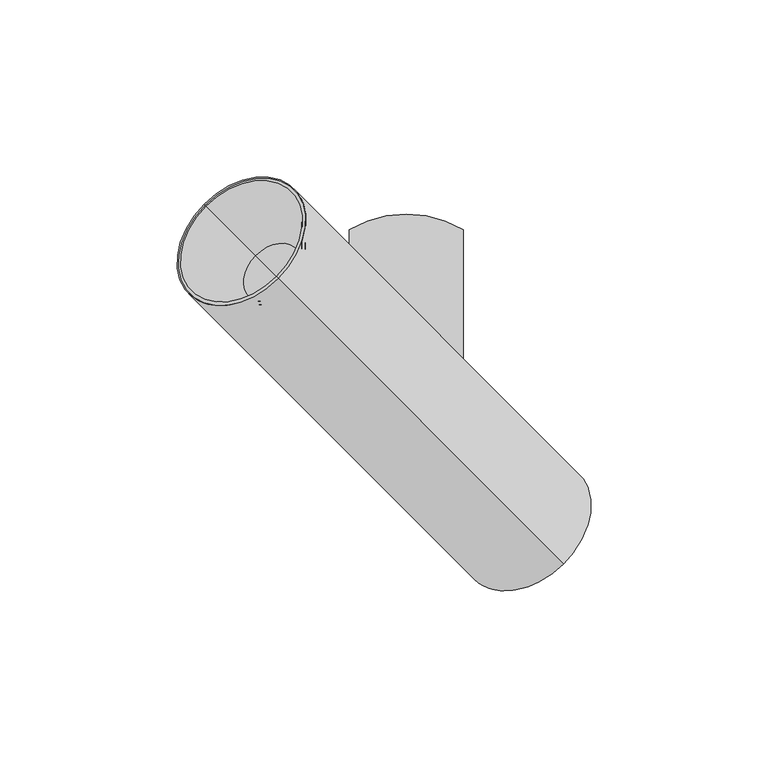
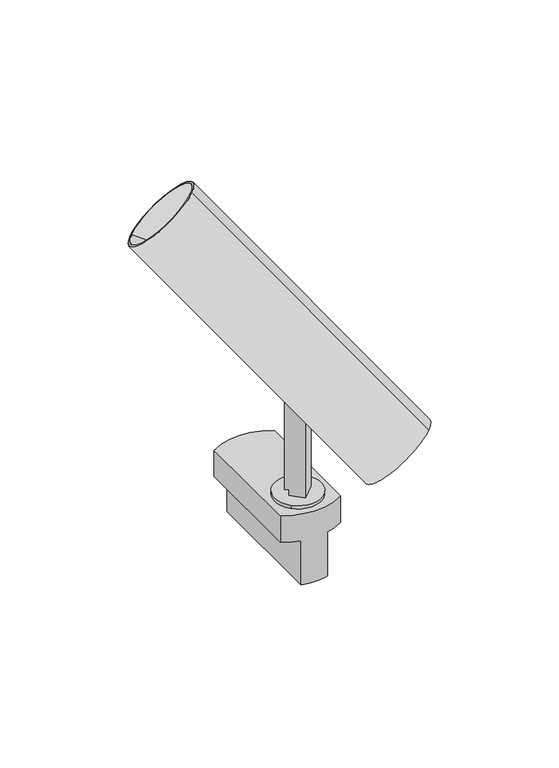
"""IFC4 building model written with IfcOpenShell, lengths in millimetres: light fixture geometry, PIPES T XS : 490lm 7,8W 930 38°."""

from ifc_helpers import new_model, si_unit, point, frame, frame_2d, origin, origin_2d, place, context, project, spatial, polyline, circle_curve, trimmed, segment, composite_curve, outline, extrude, source, transform, mapped, element, save
from ifc_brep_helpers import plane_surface, cylinder_surface, revolved_surface, advanced_brep


def light_fixture_8a452a98(model_context):
    return source(origin(), model_context, "Body", "SolidModel", [
        extrude(outline(composite_curve([segment(polyline([(-39.7303383, 0.0), (8.1822916, 0.0)]), True, "CONTINUOUS"), segment(trimmed(circle_curve(frame_2d((17.7182036, -2.2388678)), 9.7952104), [point((8.1822916, 0.0))], [point((9.8735653, 3.626948))], False, "CARTESIAN"), True, "CONTINUOUS"), segment(polyline([(9.8735653, 3.626948), (15.691322, 3.626948)]), True, "CONTINUOUS"), segment(trimmed(circle_curve(frame_2d((15.691322, -2.0000001)), 5.626948), [point((15.691322, 3.626948))], [point((21.31827, -2.0000001))], False, "CARTESIAN"), True, "CONTINUOUS"), segment(polyline([(21.31827, -2.0000001), (21.31827, -10.0), (-36.7303383, -10.0), (-36.7303383, -7.9999999), (-39.7303383, -7.9999999), (-39.7303383, 0.0)]), True, "CONTINUOUS")], self_intersect=False)), frame((0.0, -7.0710678, 56.5303383), z_axis=(0.7071067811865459, 0.7071067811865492, 0.0), x_axis=(0.0, 0.0, 1.0)), (0.0, 0.0, 1.0), 10.0),
        extrude(outline(composite_curve([segment(trimmed(circle_curve(origin_2d(), 12.5), [point((-8.8388348, -8.8388348))], [point((8.8388348, 8.8388348))], False, "CARTESIAN"), True, "CONTINUOUS"), segment(trimmed(circle_curve(origin_2d(), 12.5), [point((8.8388348, 8.8388348))], [point((-8.8388348, -8.8388348))], False, "CARTESIAN"), True, "CONTINUOUS")], self_intersect=False)), frame((0.0, 0.0, 15.0), z_axis=(0.0, 0.0, 1.0), x_axis=(1.0, 0.0, 0.0)), (0.0, 0.0, 1.0), 1.8),
        advanced_brep(
        [(-7.1153658, -15.2862846, -25.0), (-7.1153658, 53.3498174, -25.0), (7.1153658, 53.3498174, -25.0), (7.1153658, -15.2862846, -25.0), (-16.1153658, 49.7317664, 15.0), (-16.1153658, -11.6682336, 15.0), (16.1153658, -11.6682336, 15.0), (16.1153658, 49.7317664, 15.0), (-16.1153658, 49.7317664, 0.0), (-16.1153658, -11.6682336, 0.0), (-7.1153658, -15.2862846, 0.0), (7.1153658, -15.2862846, 0.0), (16.1153658, -11.6682336, 0.0), (16.1153658, 49.7317664, 0.0), (7.1153658, 53.3498174, 0.0), (-7.1153658, 53.3498174, 0.0)],
        [
            (0, 1),
            (1, 2, circle_curve(frame((0.0, 22.6472542, -25.0), z_axis=(0.0, 0.0, -1.0), x_axis=(1.0, 0.0, 0.0)), 31.5162786)),
            (2, 3),
            (3, 0, circle_curve(frame((0.0, 15.4162786, -25.0), z_axis=(0.0, 0.0, -1.0), x_axis=(1.0, 0.0, 0.0)), 31.5162786)),
            (4, 5),
            (5, 6, circle_curve(frame((0.0, 15.4162786, 15.0), z_axis=(0.0, 0.0, 1.0), x_axis=(1.0, 0.0, 0.0)), 31.5162786)),
            (6, 7),
            (7, 4, circle_curve(frame((0.0, 22.6472542, 15.0), z_axis=(0.0, 0.0, 1.0), x_axis=(1.0, 0.0, 0.0)), 31.5162786)),
            (4, 8),
            (8, 9),
            (9, 5),
            (9, 10, circle_curve(frame((0.0, 15.4162786, 0.0), z_axis=(0.0, 0.0, 1.0), x_axis=(1.0, 0.0, 0.0)), 31.5162786)),
            (10, 0),
            (3, 11),
            (11, 12, circle_curve(frame((0.0, 15.4162786, 0.0), z_axis=(0.0, 0.0, 1.0), x_axis=(1.0, 0.0, 0.0)), 31.5162786)),
            (12, 6),
            (12, 13),
            (13, 7),
            (13, 14, circle_curve(frame((0.0, 22.6472542, 0.0), z_axis=(0.0, 0.0, 1.0), x_axis=(1.0, 0.0, 0.0)), 31.5162786)),
            (14, 2),
            (1, 15),
            (15, 8, circle_curve(frame((0.0, 22.6472542, 0.0), z_axis=(0.0, 0.0, 1.0), x_axis=(1.0, 0.0, 0.0)), 31.5162786)),
            (15, 10),
            (11, 14),
        ],
        [
            plane_surface(frame((-16.1153658, -11.6883244, -25.0), z_axis=(0.0, 0.0, -1.0), x_axis=(0.0, 1.0, 0.0))),
            plane_surface(frame((-16.1153658, -11.6883244, 15.0), z_axis=(0.0, 0.0, 1.0), x_axis=(0.0, -1.0, 0.0))),
            plane_surface(frame((-16.1153658, 49.7317664, 15.0), z_axis=(-1.0, 0.0, 0.0), x_axis=(0.0, 0.0, -1.0))),
            cylinder_surface(frame((0.0, 15.4162786, -25.0), z_axis=(0.0, 0.0, 1.0), x_axis=(1.0, 0.0, 0.0)), 31.5162786),
            plane_surface(frame((16.1153658, -11.6682336, 15.0), z_axis=(1.0, 0.0, 0.0), x_axis=(0.0, 0.0, -1.0))),
            cylinder_surface(frame((0.0, 22.6472542, -25.0), z_axis=(0.0, 0.0, 1.0), x_axis=(1.0, 0.0, 0.0)), 31.5162786),
            plane_surface(frame((-7.1153658, 58.6979838, 0.0), z_axis=(0.0, 0.0, -1.0), x_axis=(-1.0, 0.0, 0.0))),
            plane_surface(frame((-7.1153658, -21.3020162, 0.0), z_axis=(-1.0, 0.0, 0.0), x_axis=(0.0, 0.0, -1.0))),
            plane_surface(frame((7.1153658, -11.6883244, 0.0), z_axis=(0.0, 0.0, -1.0), x_axis=(0.0, -1.0, 0.0))),
            plane_surface(frame((7.1153658, 58.6979838, 0.0), z_axis=(1.0, 0.0, 0.0), x_axis=(0.0, 0.0, -1.0))),
        ],
        [
            (0, [[1, 2, 3, 4]]),
            (1, [[5, 6, 7, 8]]),
            (2, [[-5, 9, 10, 11]]),
            (3, [[-6, -11, 12, 13, -4, 14, 15, 16]]),
            (4, [[-7, -16, 17, 18]]),
            (5, [[-8, -18, 19, 20, -2, 21, 22, -9]]),
            (6, [[23, -12, -10, -22]]),
            (7, [[-23, -21, -1, -13]]),
            (8, [[24, -19, -17, -15]]),
            (9, [[-24, -14, -3, -20]]),
        ],
    ),
        advanced_brep(
        [(-3.5355339, -3.5355339, 80.0710678), (21.9644661, -29.0355339, 44.008622), (18.2993147, -25.3703825, 38.8253152), (21.2993147, -28.3703825, 34.5826745), (20.2664271, -27.3374949, 33.1219508), (-8.2335729, 1.1625051, 73.4270373), (3.5355339, 3.5355339, 80.0710678), (-1.1625051, 8.2335729, 73.4270373), (27.3374949, -20.2664271, 33.1219508), (28.3703825, -21.2993147, 34.5826745), (25.3703825, -18.2993147, 38.8253152), (29.0355339, -21.9644661, 44.008622), (25.5, -25.5, 44.008622), (-5.0, 5.0, 73.0), (-57.0, 57.0, 146.5391052), (-36.0, 36.0, 176.2375901), (44.5, -44.5, 62.3933983), (43.5, -43.5, 60.9791847), (40.5, -40.5, 65.2218254), (31.0, -31.0, 51.7867966), (-32.25, 32.25, 155.37794), (-42.25, 42.25, 141.2358044), (-37.25, 37.25, 148.3068722)],
        [
            (0, 1),
            (1, 2),
            (2, 3),
            (3, 4),
            (4, 5),
            (5, 0),
            (6, 7),
            (7, 8),
            (8, 9),
            (9, 10),
            (10, 11),
            (11, 6),
            (0, 6),
            (11, 12),
            (12, 1),
            (5, 13, circle_curve(frame((5.5, -5.5, 87.8492424), z_axis=(0.5000000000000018, -0.49999999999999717, -0.7071067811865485), x_axis=(-0.5000000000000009, 0.5000000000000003, -0.7071067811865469)), 21.0)),
            (13, 7, circle_curve(frame((5.5, -5.5, 87.8492424), z_axis=(0.5000000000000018, -0.49999999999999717, -0.7071067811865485), x_axis=(-0.5000000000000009, 0.5000000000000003, -0.7071067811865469)), 21.0)),
            (14, 15, circle_curve(frame((-46.5, 46.5, 161.3883476), z_axis=(0.5000000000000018, -0.49999999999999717, -0.7071067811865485), x_axis=(-0.5000000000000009, 0.5000000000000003, -0.7071067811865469)), 21.0)),
            (15, 16),
            (16, 8, circle_curve(frame((34.0, -34.0, 47.5441559), z_axis=(-0.5000000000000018, 0.49999999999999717, 0.7071067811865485), x_axis=(-0.5000000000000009, 0.5000000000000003, -0.7071067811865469)), 21.0)),
            (13, 14),
            (15, 14, circle_curve(frame((-46.5, 46.5, 161.3883476), z_axis=(0.5000000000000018, -0.49999999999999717, -0.7071067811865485), x_axis=(-0.5000000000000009, 0.5000000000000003, -0.7071067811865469)), 21.0)),
            (4, 16, circle_curve(frame((34.0, -34.0, 47.5441559), z_axis=(-0.5000000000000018, 0.49999999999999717, 0.7071067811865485), x_axis=(-0.5000000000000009, 0.5000000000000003, -0.7071067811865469)), 21.0)),
            (16, 17),
            (17, 9, circle_curve(frame((34.0, -34.0, 47.5441559), z_axis=(-0.5000000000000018, 0.49999999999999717, 0.7071067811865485), x_axis=(-0.5000000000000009, 0.5000000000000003, -0.7071067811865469)), 19.0)),
            (3, 17, circle_curve(frame((34.0, -34.0, 47.5441559), z_axis=(-0.5000000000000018, 0.49999999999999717, 0.7071067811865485), x_axis=(-0.5000000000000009, 0.5000000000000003, -0.7071067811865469)), 19.0)),
            (17, 18),
            (18, 10, circle_curve(frame((31.0, -31.0, 51.7867966), z_axis=(-0.5000000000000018, 0.49999999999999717, 0.7071067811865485), x_axis=(-0.5000000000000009, 0.5000000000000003, -0.7071067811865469)), 19.0)),
            (2, 18, circle_curve(frame((31.0, -31.0, 51.7867966), z_axis=(-0.5000000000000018, 0.49999999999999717, 0.7071067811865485), x_axis=(-0.5000000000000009, 0.5000000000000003, -0.7071067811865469)), 19.0)),
            (18, 19),
            (19, 12),
            (20, 21, circle_curve(frame((-37.25, 37.25, 148.3068722), z_axis=(-0.5000000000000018, 0.49999999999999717, 0.7071067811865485), x_axis=(-0.5000000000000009, 0.5000000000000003, -0.7071067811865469)), 10.0)),
            (21, 22),
            (22, 20),
            (21, 20, circle_curve(frame((-37.25, 37.25, 148.3068722), z_axis=(-0.5000000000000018, 0.49999999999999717, 0.7071067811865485), x_axis=(-0.5000000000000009, 0.5000000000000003, -0.7071067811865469)), 10.0)),
            (14, 21),
            (20, 15),
        ],
        [
            plane_surface(frame((-3.5355339, -3.5355339, 80.0710678), z_axis=(0.7071067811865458, 0.7071067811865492, 0.0), x_axis=(-0.5000000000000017, 0.4999999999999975, 0.7071067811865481))),
            plane_surface(frame((3.5355339, 3.5355339, 80.0710678), z_axis=(-0.7071067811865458, -0.7071067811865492, 0.0), x_axis=(0.5000000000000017, -0.4999999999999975, -0.7071067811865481))),
            plane_surface(frame((3.5355339, 3.5355339, 80.0710678), z_axis=(-0.5000000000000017, 0.49999999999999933, -0.707106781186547), x_axis=(-0.7071067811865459, -0.7071067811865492, 0.0))),
            plane_surface(frame((-6.4644661, 13.5355339, 65.9289322), z_axis=(0.5000000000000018, -0.49999999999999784, -0.7071067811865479), x_axis=(-0.707106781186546, -0.7071067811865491, 0.0))),
            cylinder_surface(frame((38.2261905, -38.2261905, 41.56742), z_axis=(0.5000000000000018, -0.49999999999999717, -0.7071067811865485), x_axis=(-0.5000000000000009, 0.5000000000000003, -0.7071067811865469)), 21.0),
            plane_surface(frame((34.0, -34.0, 47.5441559), z_axis=(0.5000000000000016, -0.49999999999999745, -0.7071067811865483), x_axis=(-0.5000000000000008, 0.5000000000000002, -0.7071067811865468))),
            revolved_surface(polyline([(24.500000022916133, -24.500000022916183, 34.109127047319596), (21.499999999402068, -21.499999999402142, 38.351767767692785)]), (38.2261905, -38.2261905, 41.56742), (0.5000000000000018, -0.49999999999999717, -0.7071067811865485)),
            revolved_surface(polyline([(24.500000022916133, -24.500000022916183, 34.109127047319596), (21.49999999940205, -21.499999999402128, 38.351767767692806)]), (38.2261905, -38.2261905, 41.56742), (0.5000000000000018, -0.49999999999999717, -0.7071067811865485)),
            plane_surface(frame((31.0, -31.0, 51.7867966), z_axis=(0.5000000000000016, -0.49999999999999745, -0.7071067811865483), x_axis=(-0.5000000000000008, 0.5000000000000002, -0.7071067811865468))),
            plane_surface(frame((-37.25, 37.25, 148.3068722), z_axis=(-0.5000000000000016, 0.49999999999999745, 0.7071067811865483), x_axis=(-0.5000000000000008, 0.5000000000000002, -0.7071067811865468))),
            revolved_surface(polyline([(-42.25, 42.25, 141.2358044), (-57.0, 57.0, 146.5391052)]), (38.2261905, -38.2261905, 41.56742), (0.5000000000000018, -0.49999999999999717, -0.7071067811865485)),
        ],
        [
            (0, [[1, 2, 3, 4, 5, 6]]),
            (1, [[7, 8, 9, 10, 11, 12]]),
            (2, [[13, -12, 14, 15, -1]]),
            (3, [[-13, -6, 16, 17, -7]]),
            (4, [[18, 19, 20, -8, -17, 21]]),
            (4, [[-19, 22, -21, -16, -5, 23]]),
            (5, [[24, 25, -9, -20]]),
            (5, [[-24, -23, -4, 26]]),
            (6, [[27, 28, -10, -25]]),
            (7, [[-27, -26, -3, 29]]),
            (8, [[30, 31, -14, -11, -28]]),
            (8, [[-30, -29, -2, -15, -31]]),
            (9, [[32, 33, 34]]),
            (9, [[-33, 35, -34]]),
            (10, [[-18, 36, -32, 37]]),
            (10, [[-22, -37, -35, -36]]),
        ],
    ),
        advanced_brep(
        [(23.9644661, -31.0355339, 41.1801948), (24.9644661, -32.0355339, 39.7659813), (22.3437531, -29.4148209, 36.0597335), (21.3437531, -28.4148209, 37.473947), (32.0355339, -24.9644661, 39.7659813), (31.0355339, -23.9644661, 41.1801948), (28.4148209, -21.3437531, 37.473947), (29.4148209, -22.3437531, 36.0597335), (27.5, -27.5, 41.1801948), (28.5, -28.5, 39.7659813), (33.0, -33.0, 48.9583694), (41.4968217, -41.4968217, 60.9746899), (42.4968217, -42.4968217, 59.5604764), (34.0, -34.0, 47.5441559)],
        [
            (0, 1),
            (1, 2),
            (2, 3),
            (3, 0),
            (4, 5),
            (5, 6),
            (6, 7),
            (7, 4),
            (0, 8),
            (8, 5),
            (4, 9),
            (9, 1),
            (10, 11),
            (11, 6, circle_curve(frame((33.0, -33.0, 48.9583694), z_axis=(-0.5000000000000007, 0.4999999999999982, 0.7071067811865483), x_axis=(-0.5000000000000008, 0.5000000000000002, -0.7071067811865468)), 16.9936434)),
            (8, 10),
            (3, 11, circle_curve(frame((33.0, -33.0, 48.9583694), z_axis=(-0.5000000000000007, 0.4999999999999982, 0.7071067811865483), x_axis=(-0.5000000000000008, 0.5000000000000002, -0.7071067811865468)), 16.9936434)),
            (11, 12),
            (12, 7, circle_curve(frame((34.0, -34.0, 47.5441559), z_axis=(-0.5000000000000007, 0.4999999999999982, 0.7071067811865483), x_axis=(-0.5000000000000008, 0.5000000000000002, -0.7071067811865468)), 16.9936434)),
            (2, 12, circle_curve(frame((34.0, -34.0, 47.5441559), z_axis=(-0.5000000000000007, 0.4999999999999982, 0.7071067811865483), x_axis=(-0.5000000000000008, 0.5000000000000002, -0.7071067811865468)), 16.9936434)),
            (12, 13),
            (13, 9),
        ],
        [
            plane_surface(frame((-3.5355339, -3.5355339, 80.0710678), z_axis=(0.7071067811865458, 0.7071067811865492, 0.0), x_axis=(-0.5000000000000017, 0.4999999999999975, 0.7071067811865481))),
            plane_surface(frame((3.5355339, 3.5355339, 80.0710678), z_axis=(-0.7071067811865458, -0.7071067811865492, 0.0), x_axis=(0.5000000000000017, -0.4999999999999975, -0.7071067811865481))),
            plane_surface(frame((3.5355339, 3.5355339, 80.0710678), z_axis=(-0.5000000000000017, 0.49999999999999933, -0.707106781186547), x_axis=(-0.7071067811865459, -0.7071067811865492, 0.0))),
            plane_surface(frame((33.0, -33.0, 48.9583694), z_axis=(-0.5000000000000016, 0.49999999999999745, 0.7071067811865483), x_axis=(-0.5000000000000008, 0.5000000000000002, -0.7071067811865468))),
            cylinder_surface(frame((-32.0238095, 32.0238095, 140.9159227), z_axis=(0.5000000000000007, -0.4999999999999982, -0.7071067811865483), x_axis=(-0.5000000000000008, 0.5000000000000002, -0.7071067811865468)), 16.9936434),
            plane_surface(frame((34.0, -34.0, 47.5441559), z_axis=(0.5000000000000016, -0.49999999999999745, -0.7071067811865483), x_axis=(-0.5000000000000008, 0.5000000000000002, -0.7071067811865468))),
        ],
        [
            (0, [[1, 2, 3, 4]]),
            (1, [[5, 6, 7, 8]]),
            (2, [[-1, 9, 10, -5, 11, 12]]),
            (3, [[13, 14, -6, -10, 15]]),
            (3, [[-13, -15, -9, -4, 16]]),
            (4, [[17, 18, -7, -14]]),
            (4, [[-17, -16, -3, 19]]),
            (5, [[20, 21, -11, -8, -18]]),
            (5, [[-20, -19, -2, -12, -21]]),
        ],
    ),
        advanced_brep(
        [(-33.034412, 33.034412, 155.6828275), (-42.465588, 42.465588, 142.3451304), (-37.75, 37.75, 149.013979), (-36.5817093, 36.5817093, 175.4149289), (-56.4182907, 56.4182907, 147.3617664), (-36.0, 36.0, 176.2375901), (-57.0, 57.0, 146.5391052), (-32.25, 32.25, 155.37794), (-42.25, 42.25, 141.2358044), (-37.25, 37.25, 148.3068722)],
        [
            (0, 1, circle_curve(frame((-37.75, 37.75, 149.013979), z_axis=(-0.5000000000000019, 0.4999999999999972, 0.7071067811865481), x_axis=(-0.5000000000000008, 0.5000000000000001, -0.7071067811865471)), 9.431176)),
            (1, 2),
            (2, 0),
            (1, 0, circle_curve(frame((-37.75, 37.75, 149.013979), z_axis=(-0.5000000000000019, 0.4999999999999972, 0.7071067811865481), x_axis=(-0.5000000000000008, 0.5000000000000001, -0.7071067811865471)), 9.431176)),
            (3, 4, circle_curve(frame((-46.5, 46.5, 161.3883476), z_axis=(-0.5000000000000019, 0.4999999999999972, 0.7071067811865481), x_axis=(-0.5000000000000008, 0.5000000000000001, -0.7071067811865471)), 19.8365814)),
            (4, 1),
            (0, 3),
            (4, 3, circle_curve(frame((-46.5, 46.5, 161.3883476), z_axis=(-0.5000000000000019, 0.4999999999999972, 0.7071067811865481), x_axis=(-0.5000000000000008, 0.5000000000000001, -0.7071067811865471)), 19.8365814)),
            (5, 6, circle_curve(frame((-46.5, 46.5, 161.3883476), z_axis=(-0.5000000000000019, 0.4999999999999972, 0.7071067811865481), x_axis=(-0.5000000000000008, 0.5000000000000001, -0.7071067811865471)), 21.0)),
            (6, 4),
            (3, 5),
            (6, 5, circle_curve(frame((-46.5, 46.5, 161.3883476), z_axis=(-0.5000000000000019, 0.4999999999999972, 0.7071067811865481), x_axis=(-0.5000000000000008, 0.5000000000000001, -0.7071067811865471)), 21.0)),
            (7, 8, circle_curve(frame((-37.25, 37.25, 148.3068722), z_axis=(-0.5000000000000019, 0.4999999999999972, 0.7071067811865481), x_axis=(-0.5000000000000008, 0.5000000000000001, -0.7071067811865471)), 10.0)),
            (8, 6),
            (5, 7),
            (8, 7, circle_curve(frame((-37.25, 37.25, 148.3068722), z_axis=(-0.5000000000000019, 0.4999999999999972, 0.7071067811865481), x_axis=(-0.5000000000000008, 0.5000000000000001, -0.7071067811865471)), 10.0)),
            (9, 8),
            (7, 9),
        ],
        [
            plane_surface(frame((-37.75, 37.75, 149.013979), z_axis=(-0.5000000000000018, 0.4999999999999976, 0.707106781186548), x_axis=(-0.5000000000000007, 0.5, -0.707106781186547))),
            revolved_surface(polyline([(-42.465588, 42.465588, 142.3451304), (-56.4182907, 56.4182907, 147.3617664)]), (48.2261905, -48.2261905, 27.4252844), (0.500000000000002, -0.49999999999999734, -0.7071067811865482)),
            plane_surface(frame((-46.5, 46.5, 161.3883476), z_axis=(-0.5000000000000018, 0.4999999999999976, 0.707106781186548), x_axis=(-0.5000000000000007, 0.5, -0.707106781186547))),
            revolved_surface(polyline([(-57.0, 57.0, 146.5391052), (-42.25, 42.25, 141.2358044)]), (48.2261905, -48.2261905, 27.4252844), (0.500000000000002, -0.49999999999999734, -0.7071067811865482)),
            plane_surface(frame((-37.25, 37.25, 148.3068722), z_axis=(0.5000000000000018, -0.4999999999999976, -0.707106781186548), x_axis=(-0.5000000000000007, 0.5, -0.707106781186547))),
        ],
        [
            (0, [[1, 2, 3]]),
            (0, [[4, -3, -2]]),
            (1, [[5, 6, -1, 7]]),
            (1, [[8, -7, -4, -6]]),
            (2, [[9, 10, -5, 11]]),
            (2, [[12, -11, -8, -10]]),
            (3, [[13, 14, -9, 15]]),
            (3, [[16, -15, -12, -14]]),
            (4, [[17, -13, 18]]),
            (4, [[-18, -16, -17]]),
        ],
    ),
    ])


if __name__ == "__main__":
    model = new_model("IFC4")
    model_context = context("Model", 3, world=origin())
    ifc_project = project(units=[si_unit("LENGTHUNIT", "METRE", prefix="MILLI")], contexts=[model_context])
    site = spatial("IfcSite", under=ifc_project)
    building = spatial("IfcBuilding", under=site)
    placement = place(None, origin())
    light_fixture_shape = light_fixture_8a452a98(model_context)
    element("IfcLightFixture", 1, ObjectType="PIPES T XS : 490lm 7,8W 930 38°", at=placement, inside=building, context=model_context, shape_type="MappedRepresentation", body=[
        mapped(light_fixture_shape, transform((0.0, 0.0, 0.0), x_axis=(1.0, 0.0, 0.0), y_axis=(0.0, 1.0, 0.0), z_axis=(0.0, 0.0, 1.0))),
    ])
    save(model, "model.ifc")
